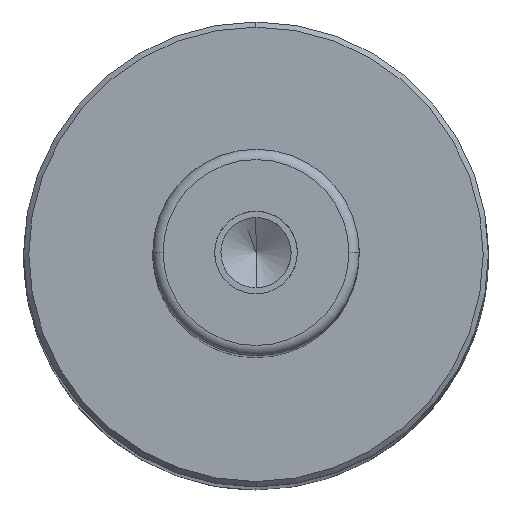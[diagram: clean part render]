
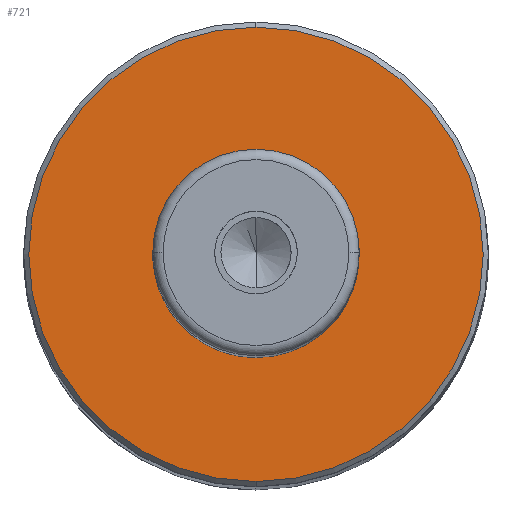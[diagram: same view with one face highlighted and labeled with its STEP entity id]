
A CAD part, top view. The second image highlights one B-rep face of the part: STEP entity #721.
In plain terms, the highlighted planar face has unit normal (0, 0, 1).
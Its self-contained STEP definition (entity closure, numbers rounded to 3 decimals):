
#400=CARTESIAN_POINT('Vertex',(0.,22.,183.)) ;
#407=CARTESIAN_POINT('Vertex',(0.,-22.,183.)) ;
#410=CARTESIAN_POINT('Axis2P3D Location',(0.,0.,183.)) ;
#427=CARTESIAN_POINT('Axis2P3D Location',(0.,0.,183.)) ;
#652=CARTESIAN_POINT('Axis2P3D Location',(0.,16.,183.)) ;
#662=CARTESIAN_POINT('Control Point',(0.,10.,183.)) ;
#663=CARTESIAN_POINT('Control Point',(-0.93,10.,183.)) ;
#664=CARTESIAN_POINT('Control Point',(-1.859,9.892,183.)) ;
#665=CARTESIAN_POINT('Control Point',(-2.772,9.676,183.)) ;
#666=CARTESIAN_POINT('Control Point',(-4.53,9.036,183.)) ;
#667=CARTESIAN_POINT('Control Point',(-6.095,8.01,183.)) ;
#668=CARTESIAN_POINT('Control Point',(-6.815,7.407,183.)) ;
#669=CARTESIAN_POINT('Control Point',(-8.1,6.047,183.)) ;
#670=CARTESIAN_POINT('Control Point',(-9.039,4.428,183.)) ;
#671=CARTESIAN_POINT('Control Point',(-9.412,3.567,183.)) ;
#672=CARTESIAN_POINT('Control Point',(-9.951,1.775,183.)) ;
#673=CARTESIAN_POINT('Control Point',(-10.065,-0.093,183.)) ;
#674=CARTESIAN_POINT('Control Point',(-10.012,-1.03,183.)) ;
#675=CARTESIAN_POINT('Control Point',(-9.691,-2.873,183.)) ;
#676=CARTESIAN_POINT('Control Point',(-8.955,-4.594,183.)) ;
#677=CARTESIAN_POINT('Control Point',(-8.489,-5.408,183.)) ;
#678=CARTESIAN_POINT('Control Point',(-7.375,-6.912,183.)) ;
#679=CARTESIAN_POINT('Control Point',(-5.946,-8.121,183.)) ;
#680=CARTESIAN_POINT('Control Point',(-5.165,-8.639,183.)) ;
#681=CARTESIAN_POINT('Control Point',(-3.696,-9.383,183.)) ;
#682=CARTESIAN_POINT('Control Point',(-2.111,-9.813,183.)) ;
#683=CARTESIAN_POINT('Control Point',(-1.412,-9.938,183.)) ;
#684=CARTESIAN_POINT('Control Point',(-0.706,-10.,183.)) ;
#685=CARTESIAN_POINT('Control Point',(0.,-10.,183.)) ;
#686=CARTESIAN_POINT('Vertex',(0.,10.,183.)) ;
#688=CARTESIAN_POINT('Vertex',(0.,-10.,183.)) ;
#692=CARTESIAN_POINT('Control Point',(0.,-10.,183.)) ;
#693=CARTESIAN_POINT('Control Point',(0.93,-10.,183.)) ;
#694=CARTESIAN_POINT('Control Point',(1.859,-9.892,183.)) ;
#695=CARTESIAN_POINT('Control Point',(2.772,-9.676,183.)) ;
#696=CARTESIAN_POINT('Control Point',(4.53,-9.036,183.)) ;
#697=CARTESIAN_POINT('Control Point',(6.095,-8.01,183.)) ;
#698=CARTESIAN_POINT('Control Point',(6.815,-7.407,183.)) ;
#699=CARTESIAN_POINT('Control Point',(8.1,-6.047,183.)) ;
#700=CARTESIAN_POINT('Control Point',(9.039,-4.428,183.)) ;
#701=CARTESIAN_POINT('Control Point',(9.412,-3.567,183.)) ;
#702=CARTESIAN_POINT('Control Point',(9.951,-1.775,183.)) ;
#703=CARTESIAN_POINT('Control Point',(10.065,0.093,183.)) ;
#704=CARTESIAN_POINT('Control Point',(10.012,1.03,183.)) ;
#705=CARTESIAN_POINT('Control Point',(9.691,2.873,183.)) ;
#706=CARTESIAN_POINT('Control Point',(8.955,4.594,183.)) ;
#707=CARTESIAN_POINT('Control Point',(8.489,5.408,183.)) ;
#708=CARTESIAN_POINT('Control Point',(7.375,6.912,183.)) ;
#709=CARTESIAN_POINT('Control Point',(5.946,8.121,183.)) ;
#710=CARTESIAN_POINT('Control Point',(5.165,8.639,183.)) ;
#711=CARTESIAN_POINT('Control Point',(3.696,9.383,183.)) ;
#712=CARTESIAN_POINT('Control Point',(2.111,9.813,183.)) ;
#713=CARTESIAN_POINT('Control Point',(1.412,9.938,183.)) ;
#714=CARTESIAN_POINT('Control Point',(0.706,10.,183.)) ;
#715=CARTESIAN_POINT('Control Point',(0.,10.,183.)) ;
#411=DIRECTION('Axis2P3D Direction',(0.,0.,-1.)) ;
#428=DIRECTION('Axis2P3D Direction',(0.,0.,-1.)) ;
#653=DIRECTION('Axis2P3D Direction',(0.,0.,1.)) ;
#654=DIRECTION('Axis2P3D XDirection',(0.,1.,0.)) ;
#412=AXIS2_PLACEMENT_3D('Circle Axis2P3D',#410,#411,$) ;
#429=AXIS2_PLACEMENT_3D('Circle Axis2P3D',#427,#428,$) ;
#655=AXIS2_PLACEMENT_3D('Plane Axis2P3D',#652,#653,#654) ;
#658=ORIENTED_EDGE('',*,*,#414,.T.) ;
#659=ORIENTED_EDGE('',*,*,#431,.T.) ;
#718=ORIENTED_EDGE('',*,*,#690,.F.) ;
#719=ORIENTED_EDGE('',*,*,#716,.F.) ;
#720=FACE_BOUND('',#717,.T.) ;
#721=ADVANCED_FACE('',(#660,#720),#656,.T.) ;
#661=B_SPLINE_CURVE_WITH_KNOTS('',5,(#662,#663,#664,#665,#666,#667,#668,#669,#670,#671,#672,#673,#674,#675,#676,#677,#678,#679,#680,#681,#682,#683,#684,#685),.UNSPECIFIED.,.F.,.U.,(6,3,3,3,3,3,3,6),(0.,6.573,13.145,19.718,26.29,32.863,39.436,44.428),.UNSPECIFIED.) ;
#691=B_SPLINE_CURVE_WITH_KNOTS('',5,(#692,#693,#694,#695,#696,#697,#698,#699,#700,#701,#702,#703,#704,#705,#706,#707,#708,#709,#710,#711,#712,#713,#714,#715),.UNSPECIFIED.,.F.,.U.,(6,3,3,3,3,3,3,6),(0.,6.573,13.145,19.718,26.29,32.863,39.436,44.428),.UNSPECIFIED.) ;
#413=CIRCLE('generated circle',#412,22.) ;
#430=CIRCLE('generated circle',#429,22.) ;
#414=EDGE_CURVE('',#401,#408,#413,.F.) ;
#431=EDGE_CURVE('',#408,#401,#430,.F.) ;
#690=EDGE_CURVE('',#687,#689,#661,.T.) ;
#716=EDGE_CURVE('',#689,#687,#691,.T.) ;
#657=EDGE_LOOP('',(#658,#659)) ;
#717=EDGE_LOOP('',(#718,#719)) ;
#660=FACE_OUTER_BOUND('',#657,.T.) ;
#656=PLANE('Plane',#655) ;
#401=VERTEX_POINT('',#400) ;
#408=VERTEX_POINT('',#407) ;
#687=VERTEX_POINT('',#686) ;
#689=VERTEX_POINT('',#688) ;
